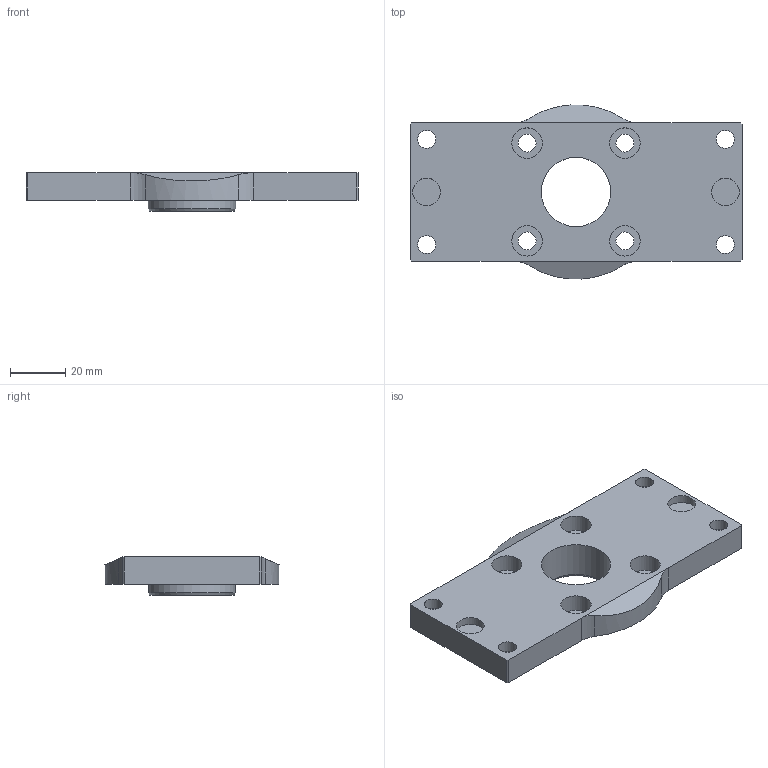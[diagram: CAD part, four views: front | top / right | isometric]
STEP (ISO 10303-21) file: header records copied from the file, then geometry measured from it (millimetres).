
FILE_DESCRIPTION((''),'2;1');
FILE_SCHEMA(('AUTOMOTIVE_DESIGN { 1 0 10303 214 1 1 1 1 }'));
Length unit declared in the file: millimetre
Products named in the file (1): FL-ISO50-RPG120 - CUSTOMER
Bounding box: 120 x 62.89 x 14 mm (x, y, z)
Volume: 52571.8 mm3; surface area: 18737.1 mm2
Topology: 1 solids, 1 shells, 496 faces, 1297 edges, 863 vertices
Faces by surface type: bspline 307, plane 173, cylinder 14, cone 2
Full cylindrical faces by diameter (mm): 25.011 x1, 31.5 x1
Entity records: 21080 total; most frequent: CARTESIAN_POINT 10798, ORIENTED_EDGE 2540, EDGE_CURVE 1270, DIRECTION 1182, VERTEX_POINT 862, VECTOR 654, LINE 654, EDGE_LOOP 600
